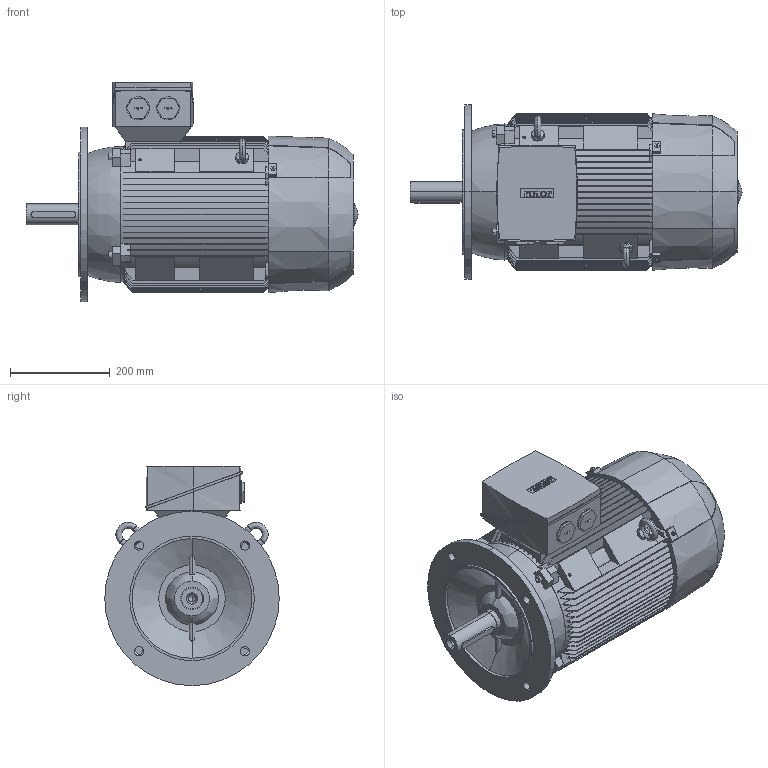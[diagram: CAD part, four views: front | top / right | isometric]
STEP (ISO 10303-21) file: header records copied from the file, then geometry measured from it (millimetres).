
FILE_DESCRIPTION (( 'STEP AP214' ), '1' );
FILE_NAME ('6RN160M04E42 IM3041.STEP', '2017-01-12T11:09:04', ( 'rbc_ict' ), ( 'Microsoft' ), 'SwSTEP 2.0', 'SolidWorks 2015', '' );
FILE_SCHEMA (( 'AUTOMOTIVE_DESIGN' ));
Length unit declared in the file: millimetre
Products named in the file (1): 6RN160M04E42 IM3041
Bounding box: 666 x 350 x 440 mm (x, y, z)
Volume: 38264209.9 mm3; surface area: 1623136.9 mm2
Topology: 1 solids, 1 shells, 906 faces, 2509 edges, 1653 vertices
Faces by surface type: plane 508, bspline 196, cylinder 177, cone 25
Entity records: 44460 total; most frequent: CARTESIAN_POINT 13957, ORIENTED_EDGE 5010, DIRECTION 3698, EDGE_CURVE 2505, VERTEX_POINT 1653, LINE 1334, VECTOR 1334, AXIS2_PLACEMENT_3D 1182
